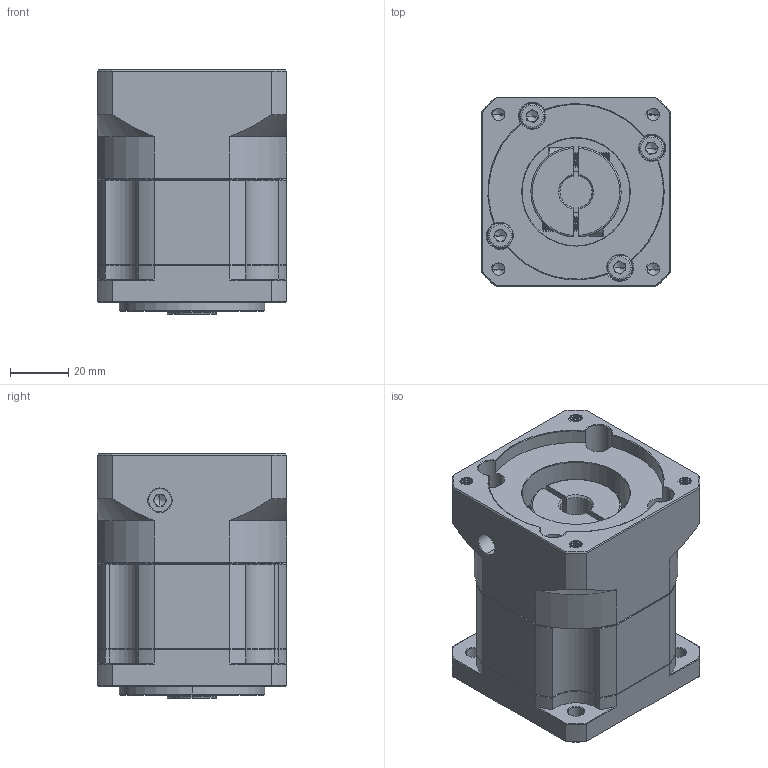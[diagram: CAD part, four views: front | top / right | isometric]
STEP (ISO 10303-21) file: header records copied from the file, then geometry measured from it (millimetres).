
FILE_DESCRIPTION (( 'STEP AP214' ), '1' );
FILE_NAME ('ZB060-K10-L1-P2-11-60-75-M5.step', '2023-08-16T07:09:22', ( '' ), ( '' ), 'SwSTEP 2.0', 'SolidWorks 2016', '' );
FILE_SCHEMA (( 'AUTOMOTIVE_DESIGN' ));
Length unit declared in the file: millimetre
Products named in the file (1): ZB060-K10-L1-P2-11-60-75-M5
Bounding box: 65 x 65 x 84 mm (x, y, z)
Volume: 258534.3 mm3; surface area: 53583.1 mm2
Topology: 6 solids, 6 shells, 2119 faces, 5709 edges, 3677 vertices
Faces by surface type: plane 1056, bspline 390, cylinder 357, cone 282, torus 34
Entity records: 112204 total; most frequent: CARTESIAN_POINT 38538, ORIENTED_EDGE 11362, DIRECTION 9044, EDGE_CURVE 5681, VERTEX_POINT 3677, VECTOR 3610, LINE 3610, AXIS2_PLACEMENT_3D 2717
